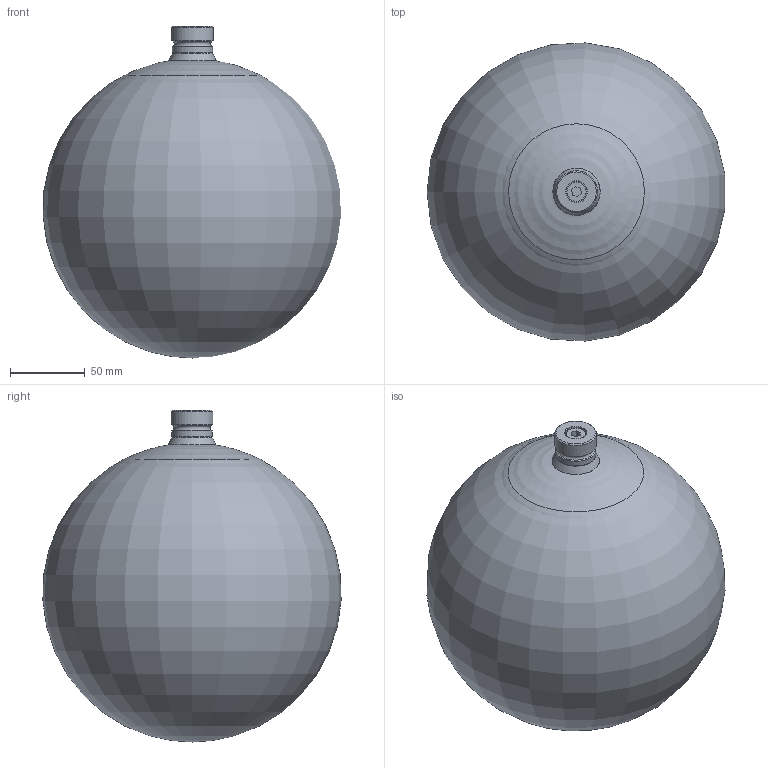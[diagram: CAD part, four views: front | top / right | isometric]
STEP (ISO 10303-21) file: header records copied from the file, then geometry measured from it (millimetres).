
FILE_DESCRIPTION(/* description */ ('Unknown'),/* implementation_level */ '2;1');
FILE_NAME(/* name */ 'AMW-0.75-P-210-C-C2-0-M 3D',/* time_stamp */ '2021-01-07T16:17:19+06:00',/* author */ ('Unknown'),/* organization */ ('Unknown'),/* preprocessor_version */ 'ST-DEVELOPER v16.7',/* originating_system */ 'Solid Edge',/* authorisation */ 'Unknown');
FILE_SCHEMA (('AUTOMOTIVE_DESIGN {1 0 10303 214 3 1 1}'));
Length unit declared in the file: millimetre
Products named in the file (7): AMW-0.75-P-210-C-C2-0-M 3D; A2 for c2 connection_oa_0; G S N M28 X 1.5; AMW-0.75-P-210-C-C2-0-M 3D_596_789_Fillet 3_oa_1; C2 CONNECTION; AMW-0.75-P-210-C-C2-0-M 3D_596_789_Fillet 3_oa_2; M8 SCERW
Assembly tree (6 placements, depth 2):
  AMW-0.75-P-210-C-C2-0-M 3D
    A2 for c2 connection_oa_0
    G S N M28 X 1.5
    AMW-0.75-P-210-C-C2-0-M 3D_596_789_Fillet 3_oa_1
    C2 CONNECTION
    AMW-0.75-P-210-C-C2-0-M 3D_596_789_Fillet 3_oa_2
    M8 SCERW
Bounding box: 199.01 x 199.35 x 221.95 mm (x, y, z)
Volume: 3328910.4 mm3; surface area: 416413.2 mm2
Topology: 6 solids, 6 shells, 64 faces, 133 edges, 83 vertices
Faces by surface type: plane 25, cone 17, cylinder 10, torus 8, bspline 3, sphere 1
Full cylindrical faces by diameter (mm): 6.917 x1, 8 x1, 12.85 x1, 14.2 x1, 18.631 x2, 27 x1, 28 x1, 34 x1, 118 x1
Entity records: 2452 total; most frequent: CARTESIAN_POINT 801, DIRECTION 241, ORIENTED_EDGE 186, AXIS2_PLACEMENT_3D 105, FACE_BOUND 100, EDGE_LOOP 99, EDGE_CURVE 93, VERTEX_POINT 73
